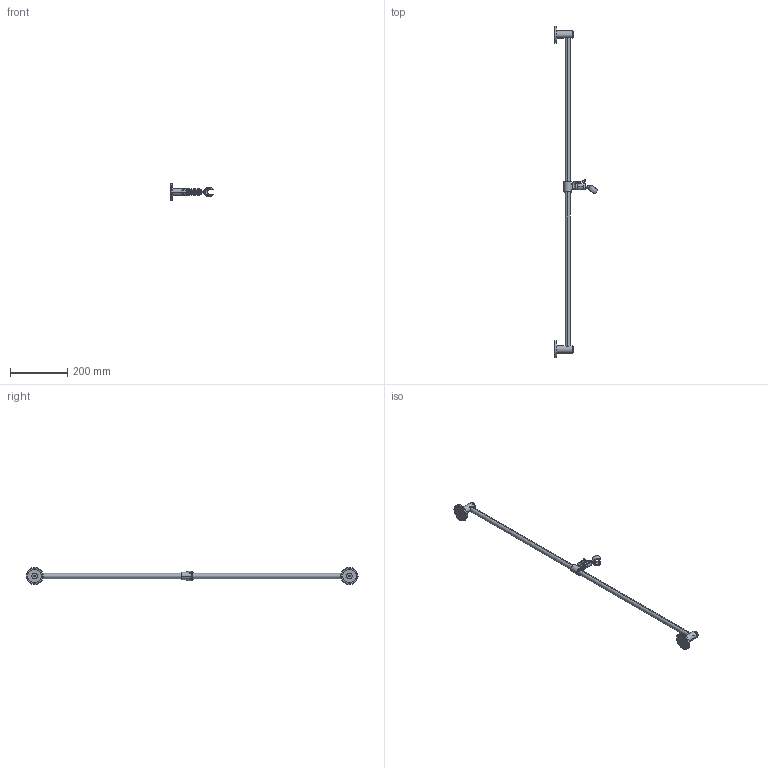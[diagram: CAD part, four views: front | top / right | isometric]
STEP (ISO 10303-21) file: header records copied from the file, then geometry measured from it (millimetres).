
FILE_DESCRIPTION((''),'2;1');
FILE_NAME('122529_ASM','2020-03-16T14:48:26',('LF994'),(''),'CREO PARAMETRIC BY PTC INC, 2018500','CREO PARAMETRIC BY PTC INC, 2018500','');
FILE_SCHEMA(('CONFIG_CONTROL_DESIGN'));
Length unit declared in the file: millimetre
Products named in the file (20): 603896; 605311; 603897; 614522; 605224; 605229; 603902; 605236; 605234; 605223_20_6; 605225_20_8; 605233; 605218; 602107; 605228; 605227; 605240; 605246; 508351_ASM; 122529_ASM
Assembly tree (22 placements, depth 3):
  122529_ASM
    603896  x2
    605311
    603897  x2
    614522  x2
    508351_ASM
      605224
      605229
      603902
      605236
      605234
      605223_20_6
      605225_20_8
      605233
      605218
      602107
      605228
      605227
      605240
      605246
Bounding box: 149.37 x 1160 x 60 mm (x, y, z)
Volume: 160048.7 mm3; surface area: 182956.7 mm2
Topology: 21 solids, 21 shells, 785 faces, 1928 edges, 1187 vertices
Faces by surface type: cylinder 225, bspline 160, plane 152, cone 121, torus 111, sphere 16
Entity records: 30445 total; most frequent: CARTESIAN_POINT 17417, ORIENTED_EDGE 2822, DIRECTION 2407, EDGE_CURVE 1411, AXIS2_PLACEMENT_3D 1031, VERTEX_POINT 862, EDGE_LOOP 645, FACE_OUTER_BOUND 597
